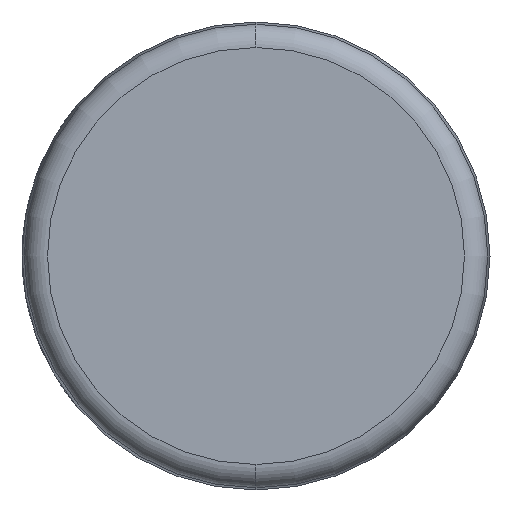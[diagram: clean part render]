
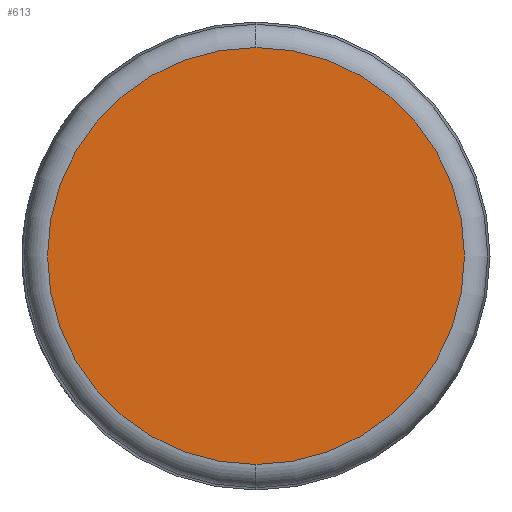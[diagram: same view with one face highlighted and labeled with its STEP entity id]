
A CAD part, left-side view. The second image highlights one B-rep face of the part: STEP entity #613.
In plain terms, the highlighted planar face has unit normal (-1, 0, 0).
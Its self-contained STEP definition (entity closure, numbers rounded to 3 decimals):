
#45 = DIRECTION ( 'NONE',  ( 1., 0., 0. ) ) ;
#48 = AXIS2_PLACEMENT_3D ( 'NONE', #270, #45, #457 ) ;
#77 = CARTESIAN_POINT ( 'NONE',  ( 0., 0., 22.272 ) ) ;
#109 = VERTEX_POINT ( 'NONE', #77 ) ;
#127 = AXIS2_PLACEMENT_3D ( 'NONE', #628, #279, #692 ) ;
#166 = AXIS2_PLACEMENT_3D ( 'NONE', #640, #287, #707 ) ;
#182 = FACE_OUTER_BOUND ( 'NONE', #731, .T. ) ;
#270 = CARTESIAN_POINT ( 'NONE',  ( 0., 0., 0. ) ) ;
#279 = DIRECTION ( 'NONE',  ( -1., 0., 0. ) ) ;
#287 = DIRECTION ( 'NONE',  ( -1., 0., 0. ) ) ;
#349 = CARTESIAN_POINT ( 'NONE',  ( 0., 0., -22.272 ) ) ;
#367 = ORIENTED_EDGE ( 'NONE', *, *, #633, .T. ) ;
#457 = DIRECTION ( 'NONE',  ( 0., 0., -1. ) ) ;
#468 = EDGE_CURVE ( 'NONE', #730, #109, #675, .T. ) ;
#612 = CIRCLE ( 'NONE', #127, 22.272 ) ;
#613 = ADVANCED_FACE ( 'NONE', ( #182 ), #745, .F. ) ;
#628 = CARTESIAN_POINT ( 'NONE',  ( 0., 0., 0. ) ) ;
#633 = EDGE_CURVE ( 'NONE', #109, #730, #612, .T. ) ;
#640 = CARTESIAN_POINT ( 'NONE',  ( 0., 0., 0. ) ) ;
#675 = CIRCLE ( 'NONE', #166, 22.272 ) ;
#692 = DIRECTION ( 'NONE',  ( 0., 0., -1. ) ) ;
#707 = DIRECTION ( 'NONE',  ( 0., 0., -1. ) ) ;
#730 = VERTEX_POINT ( 'NONE', #349 ) ;
#731 = EDGE_LOOP ( 'NONE', ( #754, #367 ) ) ;
#745 = PLANE ( 'NONE',  #48 ) ;
#754 = ORIENTED_EDGE ( 'NONE', *, *, #468, .T. ) ;
